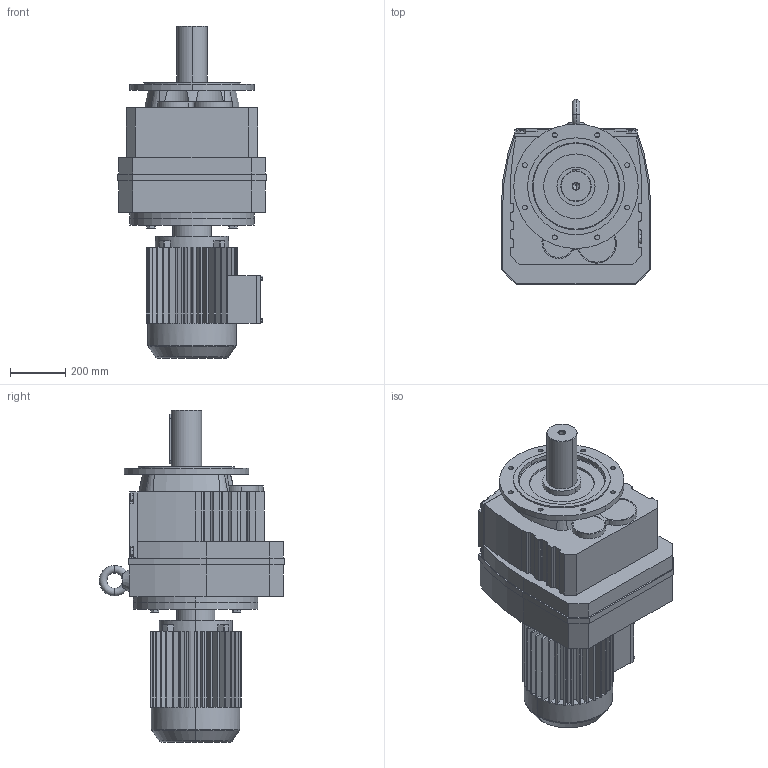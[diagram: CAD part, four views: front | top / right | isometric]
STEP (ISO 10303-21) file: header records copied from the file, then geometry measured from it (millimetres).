
FILE_DESCRIPTION(('Open CASCADE Model'),'2;1');
FILE_NAME('Open CASCADE Shape Model','2021-07-14T11:10:24',('Author'),( 'Open CASCADE'),'Open CASCADE STEP processor 6.3','Open CASCADE 6.3' ,'Unknown');
FILE_SCHEMA(('AUTOMOTIVE_DESIGN_CC2 { 1 2 10303 214 -1 1 5 4 }'));
Length unit declared in the file: millimetre
Products named in the file (3): 1_RF147-Y160M-450; RF37‵167_147_450.step; 萇儂_450_Y160M.step
Assembly tree (2 placements, depth 2):
  1_RF147-Y160M-450
    RF37‵167_147_450.step
    萇儂_450_Y160M.step
Bounding box: 540 x 670 x 1200 mm (x, y, z)
Volume: 148599293.7 mm3; surface area: 3323507.6 mm2
Topology: 2 solids, 2 shells, 739 faces, 1950 edges, 1261 vertices
Faces by surface type: plane 510, cylinder 197, cone 20, torus 12
Entity records: 51982 total; most frequent: CARTESIAN_POINT 14792, DIRECTION 6472, ORIENTED_EDGE 3896, PCURVE 3896, DEFINITIONAL_REPRESENTATION 3896, LINE 3511, VECTOR 3511, EDGE_CURVE 1948
